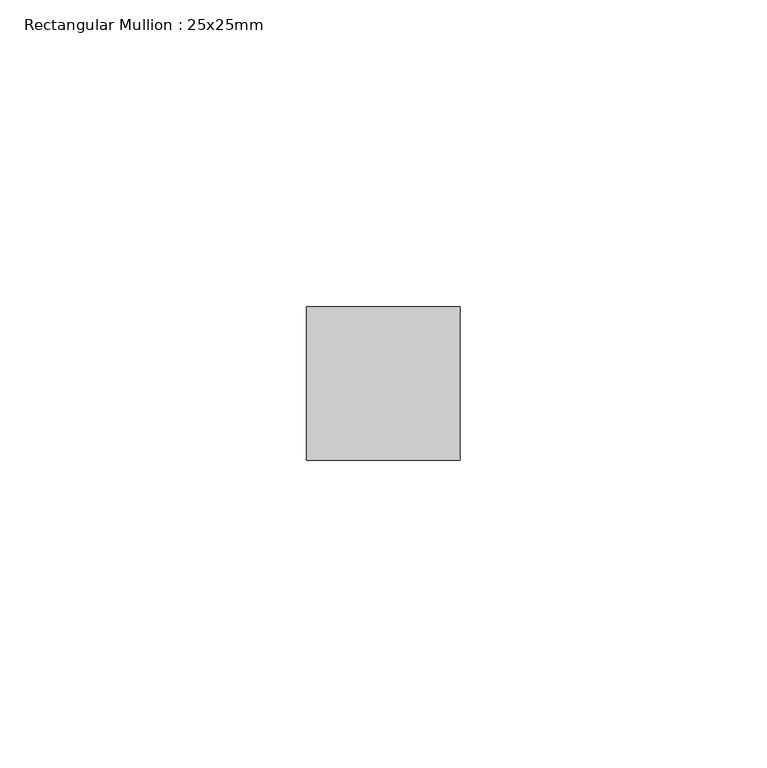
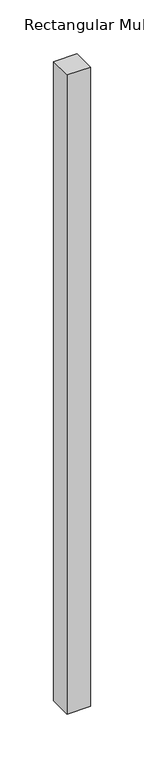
"""IFC4 building model written with IfcOpenShell, lengths in millimetres: member geometry, Rectangular Mullion : 25x25mm."""

from ifc_helpers import new_model, si_unit, frame, origin, place, context, project, spatial, polyline, outline, extrude, source, transform, mapped, element, save


def rectangular_mullion_25x25mm_d62621e3(model_context):
    return source(origin(), model_context, "Body", "SweptSolid", [
        extrude(outline(polyline([(0.0, 0.5), (0.0, -24.5), (-25.0, -24.5), (-25.0, 0.5), (0.0, 0.5)])), frame((0.0, 0.0, -725.0), z_axis=(0.0, 0.0, 1.0), x_axis=(1.0, 0.0, 0.0)), (0.0, 0.0, 1.0), 725.0),
    ])


if __name__ == "__main__":
    model = new_model("IFC4")
    model_context = context("Model", 3, world=origin())
    ifc_project = project(units=[si_unit("LENGTHUNIT", "METRE", prefix="MILLI")], contexts=[model_context])
    site = spatial("IfcSite", under=ifc_project)
    building = spatial("IfcBuilding", under=site)
    placement = place(None, origin())
    rectangular_mullion_25x25mm_shape = rectangular_mullion_25x25mm_d62621e3(model_context)
    element("IfcMember", 1, ObjectType="Rectangular Mullion : 25x25mm", at=placement, inside=building, context=model_context, shape_type="MappedRepresentation", body=[
        mapped(rectangular_mullion_25x25mm_shape, transform((0.0, 0.0, 0.0), x_axis=(1.0, 0.0, 0.0), y_axis=(0.0, 1.0, 0.0), z_axis=(0.0, 0.0, 1.0))),
    ])
    save(model, "model.ifc")
